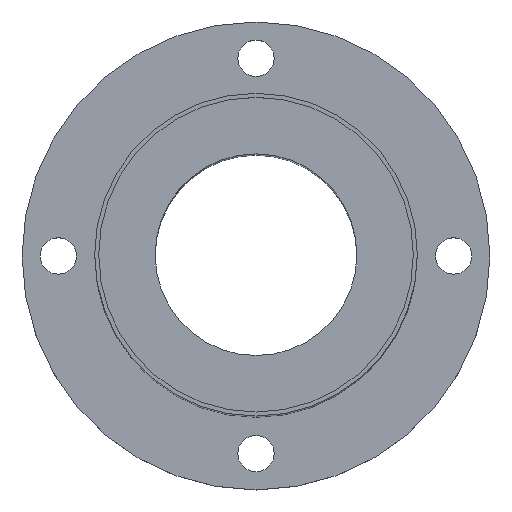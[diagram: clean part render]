
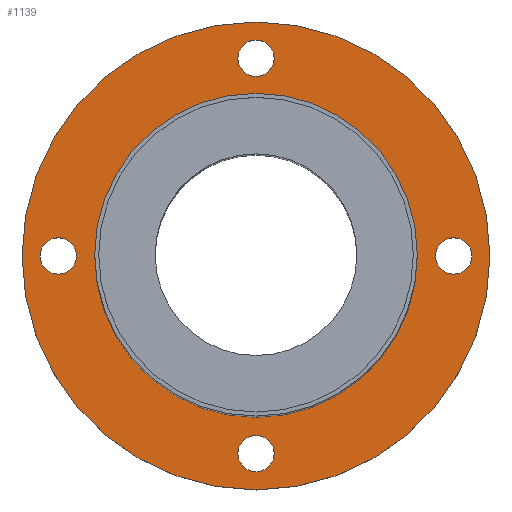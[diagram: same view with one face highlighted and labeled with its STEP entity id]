
A CAD part, top view. The second image highlights one B-rep face of the part: STEP entity #1139.
In plain terms, the highlighted planar face has unit normal (0, 0, 1).
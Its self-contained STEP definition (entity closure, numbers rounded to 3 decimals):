
#51=CARTESIAN_POINT('',(-58.,-0.1,13.0));
#52=VERTEX_POINT('',#51);
#68=CARTESIAN_POINT('',(58.,-0.1,13.0));
#69=VERTEX_POINT('',#68);
#76=CARTESIAN_POINT('',(0.0,-0.1,13.0));
#77=DIRECTION('',(0.0,0.0,-1.0));
#78=DIRECTION('',(-1.0,0.0,0.0));
#79=AXIS2_PLACEMENT_3D('',#76,#77,#78);
#80=CIRCLE('',#79,58.);
#81=EDGE_CURVE('',#69,#52,#80,.T.);
#133=CARTESIAN_POINT('',(-40.0,-0.1,13.0));
#134=VERTEX_POINT('',#133);
#143=CARTESIAN_POINT('',(40.0,-0.1,13.0));
#144=VERTEX_POINT('',#143);
#145=CARTESIAN_POINT('',(0.0,-0.1,13.0));
#146=DIRECTION('',(0.0,0.0,-1.0));
#147=DIRECTION('',(-1.0,0.0,0.0));
#148=AXIS2_PLACEMENT_3D('',#145,#146,#147);
#149=CIRCLE('',#148,40.0);
#150=EDGE_CURVE('',#144,#134,#149,.T.);
#345=CARTESIAN_POINT('',(0.0,44.4,13.0));
#346=VERTEX_POINT('',#345);
#362=CARTESIAN_POINT('',(0.,53.4,13.0));
#363=VERTEX_POINT('',#362);
#370=CARTESIAN_POINT('',(0.0,48.9,13.0));
#371=DIRECTION('',(0.0,0.0,-1.0));
#372=DIRECTION('',(0.0,-1.0,0.0));
#373=AXIS2_PLACEMENT_3D('',#370,#371,#372);
#374=CIRCLE('',#373,4.5);
#375=EDGE_CURVE('',#346,#363,#374,.T.);
#429=CARTESIAN_POINT('',(-44.5,-0.1,13.0));
#430=VERTEX_POINT('',#429);
#446=CARTESIAN_POINT('',(-53.5,-0.1,13.0));
#447=VERTEX_POINT('',#446);
#454=CARTESIAN_POINT('',(-49.0,-0.1,13.0));
#455=DIRECTION('',(0.0,0.0,-1.0));
#456=DIRECTION('',(1.0,0.0,0.0));
#457=AXIS2_PLACEMENT_3D('',#454,#455,#456);
#458=CIRCLE('',#457,4.5);
#459=EDGE_CURVE('',#430,#447,#458,.T.);
#513=CARTESIAN_POINT('',(0.,-44.6,13.0));
#514=VERTEX_POINT('',#513);
#530=CARTESIAN_POINT('',(0.,-53.6,13.0));
#531=VERTEX_POINT('',#530);
#538=CARTESIAN_POINT('',(0.,-49.1,13.0));
#539=DIRECTION('',(0.0,0.0,-1.0));
#540=DIRECTION('',(0.0,1.0,0.0));
#541=AXIS2_PLACEMENT_3D('',#538,#539,#540);
#542=CIRCLE('',#541,4.5);
#543=EDGE_CURVE('',#514,#531,#542,.T.);
#597=CARTESIAN_POINT('',(44.5,-0.1,13.0));
#598=VERTEX_POINT('',#597);
#614=CARTESIAN_POINT('',(53.5,-0.1,13.0));
#615=VERTEX_POINT('',#614);
#622=CARTESIAN_POINT('',(49.0,-0.1,13.0));
#623=DIRECTION('',(0.0,0.0,-1.0));
#624=DIRECTION('',(-1.0,0.0,0.0));
#625=AXIS2_PLACEMENT_3D('',#622,#623,#624);
#626=CIRCLE('',#625,4.5);
#627=EDGE_CURVE('',#598,#615,#626,.T.);
#638=CARTESIAN_POINT('',(49.0,-0.1,13.0));
#639=DIRECTION('',(0.0,0.0,-1.0));
#640=DIRECTION('',(-1.0,0.0,0.0));
#641=AXIS2_PLACEMENT_3D('',#638,#639,#640);
#642=CIRCLE('',#641,4.5);
#643=EDGE_CURVE('',#615,#598,#642,.T.);
#700=CARTESIAN_POINT('',(0.,-49.1,13.0));
#701=DIRECTION('',(0.0,0.0,-1.0));
#702=DIRECTION('',(0.0,1.0,0.0));
#703=AXIS2_PLACEMENT_3D('',#700,#701,#702);
#704=CIRCLE('',#703,4.5);
#705=EDGE_CURVE('',#531,#514,#704,.T.);
#762=CARTESIAN_POINT('',(-49.0,-0.1,13.0));
#763=DIRECTION('',(0.0,0.0,-1.0));
#764=DIRECTION('',(1.0,0.0,0.0));
#765=AXIS2_PLACEMENT_3D('',#762,#763,#764);
#766=CIRCLE('',#765,4.5);
#767=EDGE_CURVE('',#447,#430,#766,.T.);
#824=CARTESIAN_POINT('',(0.0,48.9,13.0));
#825=DIRECTION('',(0.0,0.0,-1.0));
#826=DIRECTION('',(0.0,-1.0,0.0));
#827=AXIS2_PLACEMENT_3D('',#824,#825,#826);
#828=CIRCLE('',#827,4.5);
#829=EDGE_CURVE('',#363,#346,#828,.T.);
#1056=CARTESIAN_POINT('',(0.0,-0.1,13.0));
#1057=DIRECTION('',(0.0,0.0,-1.0));
#1058=DIRECTION('',(-1.0,0.0,0.0));
#1059=AXIS2_PLACEMENT_3D('',#1056,#1057,#1058);
#1060=CIRCLE('',#1059,40.0);
#1061=EDGE_CURVE('',#134,#144,#1060,.T.);
#1098=CARTESIAN_POINT('',(0.0,-0.1,13.0));
#1099=DIRECTION('',(0.0,0.0,-1.0));
#1100=DIRECTION('',(-1.0,0.0,0.0));
#1101=AXIS2_PLACEMENT_3D('',#1098,#1099,#1100);
#1102=CIRCLE('',#1101,58.);
#1103=EDGE_CURVE('',#52,#69,#1102,.T.);
#1110=CARTESIAN_POINT('',(0.0,-0.1,13.0));
#1111=DIRECTION('',(0.0,0.0,-1.0));
#1112=DIRECTION('',(-1.0,0.0,0.0));
#1113=AXIS2_PLACEMENT_3D('',#1110,#1111,#1112);
#1114=PLANE('',#1113);
#1115=ORIENTED_EDGE('',*,*,#81,.F.);
#1116=ORIENTED_EDGE('',*,*,#1103,.F.);
#1117=EDGE_LOOP('',(#1115,#1116));
#1118=FACE_OUTER_BOUND('',#1117,.T.);
#1119=ORIENTED_EDGE('',*,*,#627,.T.);
#1120=ORIENTED_EDGE('',*,*,#643,.T.);
#1121=EDGE_LOOP('',(#1119,#1120));
#1122=FACE_BOUND('',#1121,.T.);
#1123=ORIENTED_EDGE('',*,*,#543,.T.);
#1124=ORIENTED_EDGE('',*,*,#705,.T.);
#1125=EDGE_LOOP('',(#1123,#1124));
#1126=FACE_BOUND('',#1125,.T.);
#1127=ORIENTED_EDGE('',*,*,#459,.T.);
#1128=ORIENTED_EDGE('',*,*,#767,.T.);
#1129=EDGE_LOOP('',(#1127,#1128));
#1130=FACE_BOUND('',#1129,.T.);
#1131=ORIENTED_EDGE('',*,*,#375,.T.);
#1132=ORIENTED_EDGE('',*,*,#829,.T.);
#1133=EDGE_LOOP('',(#1131,#1132));
#1134=FACE_BOUND('',#1133,.T.);
#1135=ORIENTED_EDGE('',*,*,#150,.T.);
#1136=ORIENTED_EDGE('',*,*,#1061,.T.);
#1137=EDGE_LOOP('',(#1135,#1136));
#1138=FACE_BOUND('',#1137,.T.);
#1139=ADVANCED_FACE('',(#1118,#1122,#1126,#1130,#1134,#1138),#1114,.F.);
